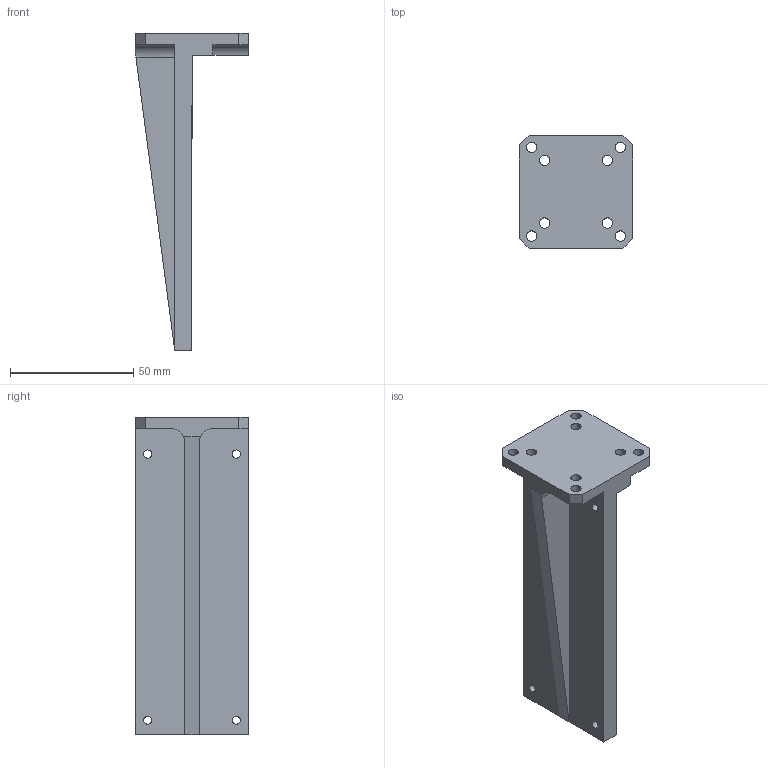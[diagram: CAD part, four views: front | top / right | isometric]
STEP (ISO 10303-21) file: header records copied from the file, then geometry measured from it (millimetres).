
FILE_DESCRIPTION (( 'STEP AP203' ), '1' );
FILE_NAME ('VH4808-Vertikalhalter-lang.STEP', '2014-07-31T07:43:53', ( '' ), ( '' ), 'SwSTEP 2.0', 'SolidWorks 2014', '' );
FILE_SCHEMA (( 'CONFIG_CONTROL_DESIGN' ));
Length unit declared in the file: millimetre
Products named in the file (1): VH4808-Vertikalhalter-lang
Bounding box: 46 x 46 x 129 mm (x, y, z)
Volume: 57707.4 mm3; surface area: 20676.6 mm2
Topology: 1 solids, 1 shells, 51 faces, 145 edges, 96 vertices
Faces by surface type: cylinder 28, plane 23
Entity records: 1804 total; most frequent: DIRECTION 303, CARTESIAN_POINT 299, ORIENTED_EDGE 290, EDGE_CURVE 145, AXIS2_PLACEMENT_3D 108, VERTEX_POINT 96, VECTOR 87, LINE 87
